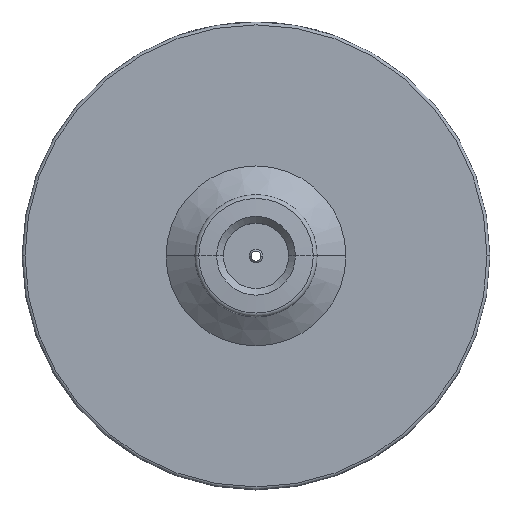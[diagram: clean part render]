
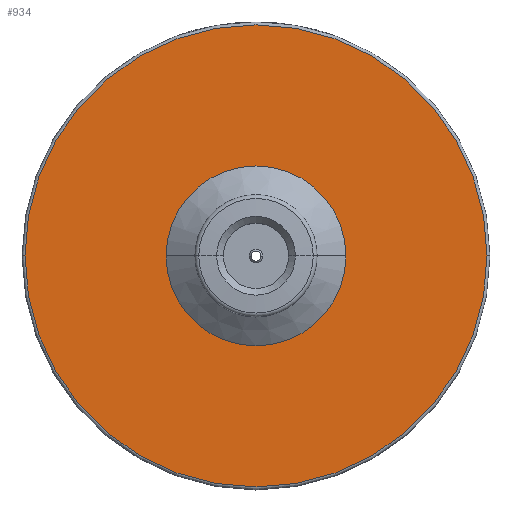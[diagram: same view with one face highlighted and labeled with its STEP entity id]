
A CAD part, top view. The second image highlights one B-rep face of the part: STEP entity #934.
In plain terms, the highlighted planar face has unit normal (0, 0, 1).
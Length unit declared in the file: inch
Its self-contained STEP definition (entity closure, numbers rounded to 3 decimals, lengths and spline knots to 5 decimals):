
#174 = VERTEX_POINT ( 'NONE', #2740 ) ;
#179 = VERTEX_POINT ( 'NONE', #2632 ) ;
#208 = EDGE_CURVE ( 'NONE', #209, #179, #2489, .T. ) ;
#209 = VERTEX_POINT ( 'NONE', #2485 ) ;
#217 = EDGE_CURVE ( 'NONE', #174, #218, #2572, .T. ) ;
#218 = VERTEX_POINT ( 'NONE', #2565 ) ;
#364 = ORIENTED_EDGE ( 'NONE', *, *, #208, .T. ) ;
#365 = ORIENTED_EDGE ( 'NONE', *, *, #584, .T. ) ;
#369 = EDGE_CURVE ( 'NONE', #218, #174, #3160, .T. ) ;
#540 = EDGE_LOOP ( 'NONE', ( #541, #542 ) ) ;
#541 = ORIENTED_EDGE ( 'NONE', *, *, #217, .T. ) ;
#542 = ORIENTED_EDGE ( 'NONE', *, *, #369, .T. ) ;
#584 = EDGE_CURVE ( 'NONE', #179, #209, #3691, .T. ) ;
#585 = EDGE_LOOP ( 'NONE', ( #364, #365 ) ) ;
#934 = ADVANCED_FACE ( 'NONE', ( #4171, #4170 ), #4177, .T. ) ;
#2485 = CARTESIAN_POINT ( 'NONE',  ( -0.625, 0., 0.503 ) ) ;
#2486 = DIRECTION ( 'NONE',  ( 1., 0., 0. ) ) ;
#2487 = DIRECTION ( 'NONE',  ( 0., 0., -1. ) ) ;
#2488 = AXIS2_PLACEMENT_3D ( 'NONE', #2683, #2487, #2486 ) ;
#2489 = CIRCLE ( 'NONE', #2488, 0.625 ) ;
#2565 = CARTESIAN_POINT ( 'NONE',  ( -1.605, 0., 0.503 ) ) ;
#2566 = DIRECTION ( 'NONE',  ( 1., 0., 0. ) ) ;
#2568 = DIRECTION ( 'NONE',  ( 0., 0., 1. ) ) ;
#2570 = CARTESIAN_POINT ( 'NONE',  ( 0., 0., 0.503 ) ) ;
#2571 = AXIS2_PLACEMENT_3D ( 'NONE', #2570, #2568, #2566 ) ;
#2572 = CIRCLE ( 'NONE', #2571, 1.605 ) ;
#2632 = CARTESIAN_POINT ( 'NONE',  ( 0.625, 0., 0.503 ) ) ;
#2683 = CARTESIAN_POINT ( 'NONE',  ( 0., 0., 0.503 ) ) ;
#2740 = CARTESIAN_POINT ( 'NONE',  ( 1.605, 0., 0.503 ) ) ;
#3157 = DIRECTION ( 'NONE',  ( 1., 0., 0. ) ) ;
#3158 = DIRECTION ( 'NONE',  ( 0., 0., 1. ) ) ;
#3159 = AXIS2_PLACEMENT_3D ( 'NONE', #3427, #3158, #3157 ) ;
#3160 = CIRCLE ( 'NONE', #3159, 1.605 ) ;
#3427 = CARTESIAN_POINT ( 'NONE',  ( 0., 0., 0.503 ) ) ;
#3691 = CIRCLE ( 'NONE', #3842, 0.625 ) ;
#3817 = CARTESIAN_POINT ( 'NONE',  ( 0., 0., 0.503 ) ) ;
#3842 = AXIS2_PLACEMENT_3D ( 'NONE', #3817, #3843, #3850 ) ;
#3843 = DIRECTION ( 'NONE',  ( 0., 0., -1. ) ) ;
#3850 = DIRECTION ( 'NONE',  ( 1., 0., 0. ) ) ;
#4166 = DIRECTION ( 'NONE',  ( 1., 0., 0. ) ) ;
#4167 = DIRECTION ( 'NONE',  ( 0., 0., 1. ) ) ;
#4168 = CARTESIAN_POINT ( 'NONE',  ( 0., 0., 0.503 ) ) ;
#4169 = AXIS2_PLACEMENT_3D ( 'NONE', #4168, #4167, #4166 ) ;
#4170 = FACE_OUTER_BOUND ( 'NONE', #540, .T. ) ;
#4171 = FACE_BOUND ( 'NONE', #585, .T. ) ;
#4177 = PLANE ( 'NONE',  #4169 ) ;
